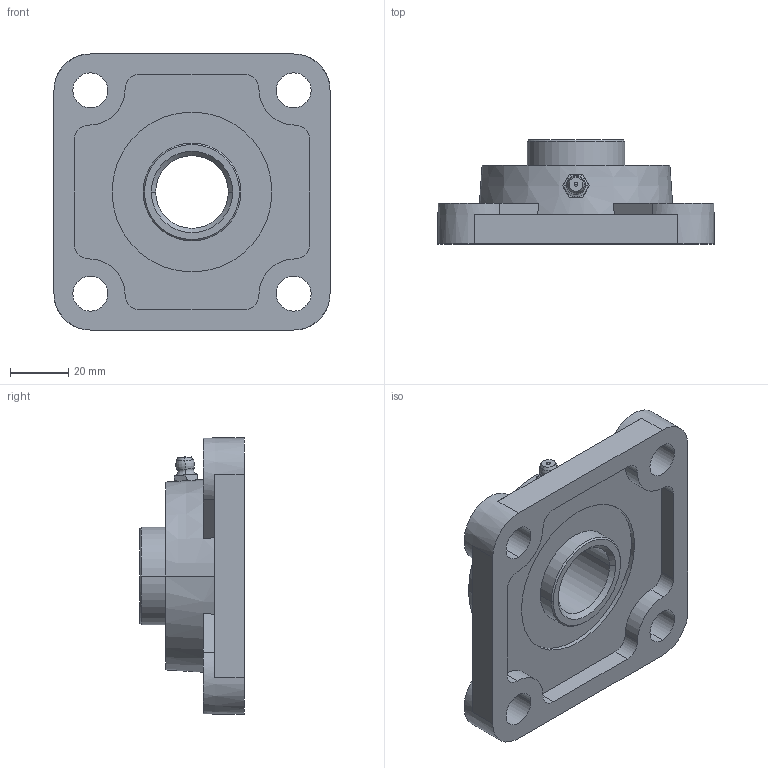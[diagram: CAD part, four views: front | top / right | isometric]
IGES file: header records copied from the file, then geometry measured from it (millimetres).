
Start section:  PTC IGES file: C:\TPO v2\SharedFS\Outgoing\ucf205.igs
Global section: file name: C:\TPO v2\SharedFS\Outgoing\ucf205.igs; native system:  by Parametric Technology Corporation; preprocessor: 2013430; organization: Unknown; date: 20170413.035606; units: millimetre
Bounding box: 95 x 35.8 x 95 mm (x, y, z)
Volume: 107625.2 mm3; surface area: 32618.1 mm2
Topology: 1 solids, 1 shells, 100 faces, 255 edges, 163 vertices
Faces by surface type: revolution 60, bspline 40
